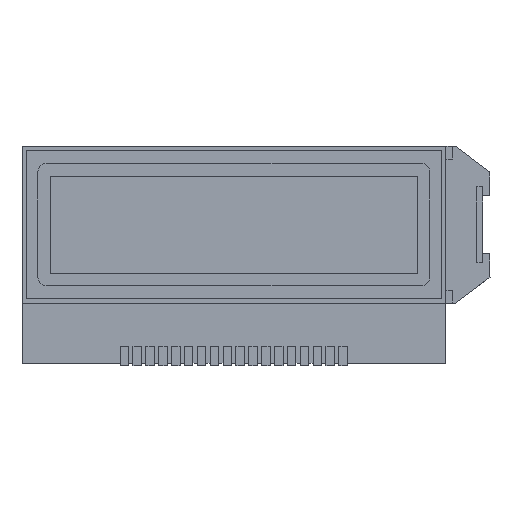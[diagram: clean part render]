
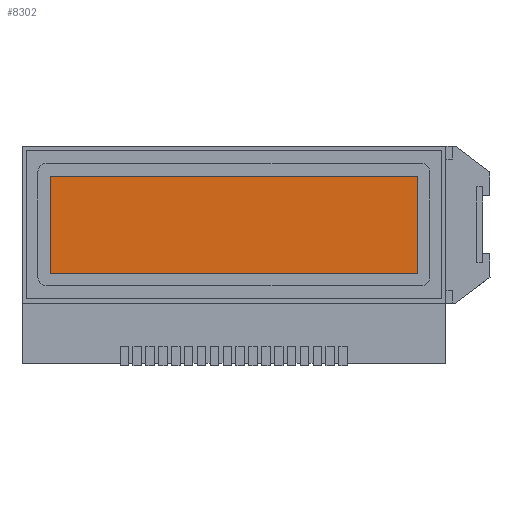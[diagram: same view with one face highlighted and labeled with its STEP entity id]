
A CAD part, top view. The second image highlights one B-rep face of the part: STEP entity #8302.
In plain terms, the highlighted planar face has unit normal (0, 0, 1).
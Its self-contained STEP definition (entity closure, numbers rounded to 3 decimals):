
#485 = DIRECTION ( 'NONE',  ( 0., 1., 0. ) ) ;
#498 = CARTESIAN_POINT ( 'NONE',  ( 256.999, 185.613, -213.717 ) ) ;
#854 = LINE ( 'NONE', #2410, #5839 ) ;
#1774 = VERTEX_POINT ( 'NONE', #4491 ) ;
#2018 = DIRECTION ( 'NONE',  ( 1., 0., 0. ) ) ;
#2198 = DIRECTION ( 'NONE',  ( 0., 0., -1. ) ) ;
#2269 = ORIENTED_EDGE ( 'NONE', *, *, #6075, .T. ) ;
#2357 = EDGE_CURVE ( 'NONE', #3566, #6821, #4225, .T. ) ;
#2410 = CARTESIAN_POINT ( 'NONE',  ( 214.139, 185.613, -213.717 ) ) ;
#2586 = AXIS2_PLACEMENT_3D ( 'NONE', #9285, #2198, #7918 ) ;
#2752 = ORIENTED_EDGE ( 'NONE', *, *, #3469, .T. ) ;
#3308 = DIRECTION ( 'NONE',  ( -1., 0., 0. ) ) ;
#3469 = EDGE_CURVE ( 'NONE', #6821, #1774, #6943, .T. ) ;
#3566 = VERTEX_POINT ( 'NONE', #4423 ) ;
#3582 = VECTOR ( 'NONE', #3308, 1000. ) ;
#4117 = VERTEX_POINT ( 'NONE', #8245 ) ;
#4225 = LINE ( 'NONE', #8580, #7426 ) ;
#4296 = EDGE_LOOP ( 'NONE', ( #2269, #7405, #2752, #8165 ) ) ;
#4423 = CARTESIAN_POINT ( 'NONE',  ( 214.139, 185.613, -213.717 ) ) ;
#4491 = CARTESIAN_POINT ( 'NONE',  ( 256.999, 196.933, -213.717 ) ) ;
#4815 = CARTESIAN_POINT ( 'NONE',  ( 256.999, 196.933, -213.717 ) ) ;
#4935 = FACE_OUTER_BOUND ( 'NONE', #4296, .T. ) ;
#5822 = PLANE ( 'NONE',  #2586 ) ;
#5839 = VECTOR ( 'NONE', #8934, 1000. ) ;
#6075 = EDGE_CURVE ( 'NONE', #4117, #3566, #854, .T. ) ;
#6224 = CARTESIAN_POINT ( 'NONE',  ( 214.139, 196.933, -213.717 ) ) ;
#6227 = EDGE_CURVE ( 'NONE', #1774, #4117, #9164, .T. ) ;
#6339 = VECTOR ( 'NONE', #485, 1000. ) ;
#6821 = VERTEX_POINT ( 'NONE', #498 ) ;
#6943 = LINE ( 'NONE', #4815, #6339 ) ;
#7405 = ORIENTED_EDGE ( 'NONE', *, *, #2357, .T. ) ;
#7426 = VECTOR ( 'NONE', #2018, 1000. ) ;
#7918 = DIRECTION ( 'NONE',  ( -1., 0., 0. ) ) ;
#8165 = ORIENTED_EDGE ( 'NONE', *, *, #6227, .T. ) ;
#8245 = CARTESIAN_POINT ( 'NONE',  ( 214.139, 196.933, -213.717 ) ) ;
#8302 = ADVANCED_FACE ( 'NONE', ( #4935 ), #5822, .F. ) ;
#8580 = CARTESIAN_POINT ( 'NONE',  ( 256.999, 185.613, -213.717 ) ) ;
#8934 = DIRECTION ( 'NONE',  ( 0., -1., 0. ) ) ;
#9164 = LINE ( 'NONE', #6224, #3582 ) ;
#9285 = CARTESIAN_POINT ( 'NONE',  ( 0., 0., -213.717 ) ) ;
